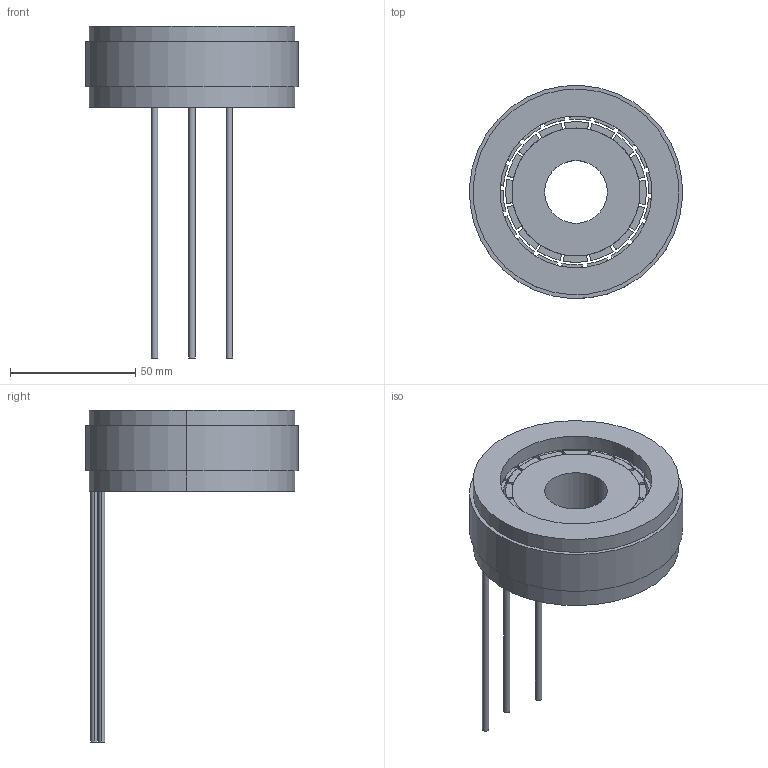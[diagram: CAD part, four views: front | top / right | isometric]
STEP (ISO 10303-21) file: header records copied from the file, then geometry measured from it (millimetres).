
FILE_DESCRIPTION (( 'STEP AP203' ), '1' );
FILE_NAME ('307080337SS FMC08518-0056-3025N-8DS00-V1.0.STEP', '2022-12-09T04:48:42', ( 'muse' ), ( 'muse' ), 'SwSTEP 2.0', 'SolidWorks 2022', '' );
FILE_SCHEMA (( 'CONFIG_CONTROL_DESIGN' ));
Length unit declared in the file: millimetre
Products named in the file (1): 307080337SS FMC08518-0056-3025N-8DS00-V1.0
Bounding box: 84.89 x 84.89 x 132.3 mm (x, y, z)
Volume: 109133.1 mm3; surface area: 50521.4 mm2
Topology: 18 solids, 18 shells, 359 faces, 882 edges, 564 vertices
Faces by surface type: plane 289, cylinder 70
Entity records: 10523 total; most frequent: DIRECTION 1814, CARTESIAN_POINT 1806, ORIENTED_EDGE 1764, EDGE_CURVE 882, LINE 670, VECTOR 670, AXIS2_PLACEMENT_3D 572, VERTEX_POINT 564
